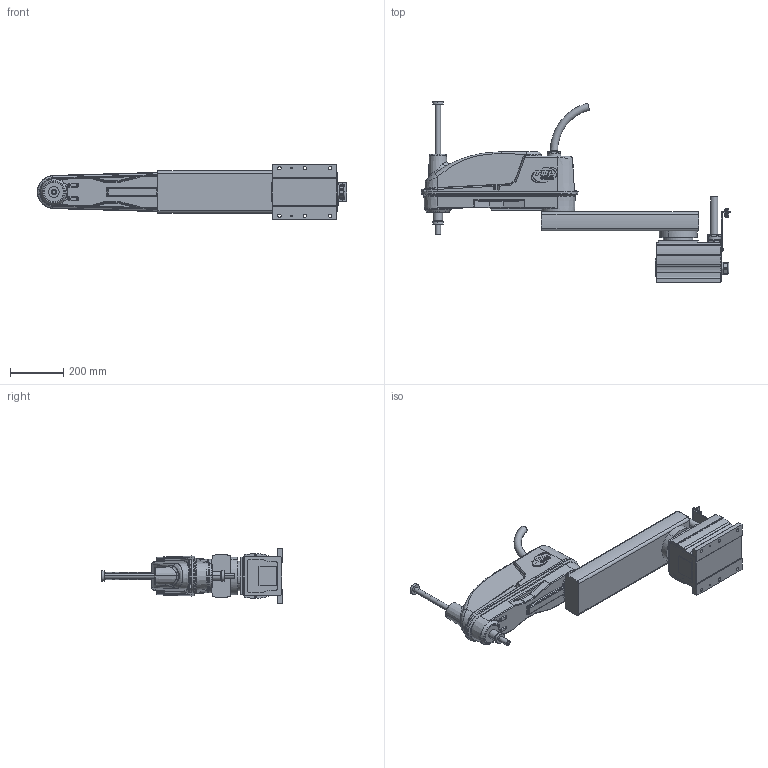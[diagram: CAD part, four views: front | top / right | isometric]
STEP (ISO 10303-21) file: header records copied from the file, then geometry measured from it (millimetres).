
FILE_DESCRIPTION((''),'2;1');
FILE_NAME('THL900_3D_ASM','2024-06-21T15:10:01',('15575'),(''),'CREO PARAMETRIC BY PTC INC, 2020454','CREO PARAMETRIC BY PTC INC, 2020454','');
FILE_SCHEMA(('AUTOMOTIVE_DESIGN { 1 0 10303 214 1 1 1 1 }'));
Products named in the file (5): THL8910_BASE; THL900_1ST_ARM; THL900_2ND_ARM; THL900_BALL_SCREW; THL900_3D_ASM
Assembly tree (4 placements, depth 2):
  THL900_3D_ASM
    THL8910_BASE
    THL900_1ST_ARM
    THL900_2ND_ARM
    THL900_BALL_SCREW
Bounding box: 1159.14 x 679 x 206 mm (x, y, z)
Volume: 12592855.4 mm3; surface area: 1646245.5 mm2
Topology: 4 solids, 13 shells, 1469 faces, 3545 edges, 2206 vertices
Faces by surface type: cylinder 548, plane 538, bspline 202, torus 90, cone 63, extrusion 18, sphere 8, revolution 2
Entity records: 66174 total; most frequent: CARTESIAN_POINT 24795, ORIENTED_EDGE 7082, DIRECTION 6666, EDGE_CURVE 3541, AXIS2_PLACEMENT_3D 2515, VERTEX_POINT 2206, VECTOR 1634, EDGE_LOOP 1619
